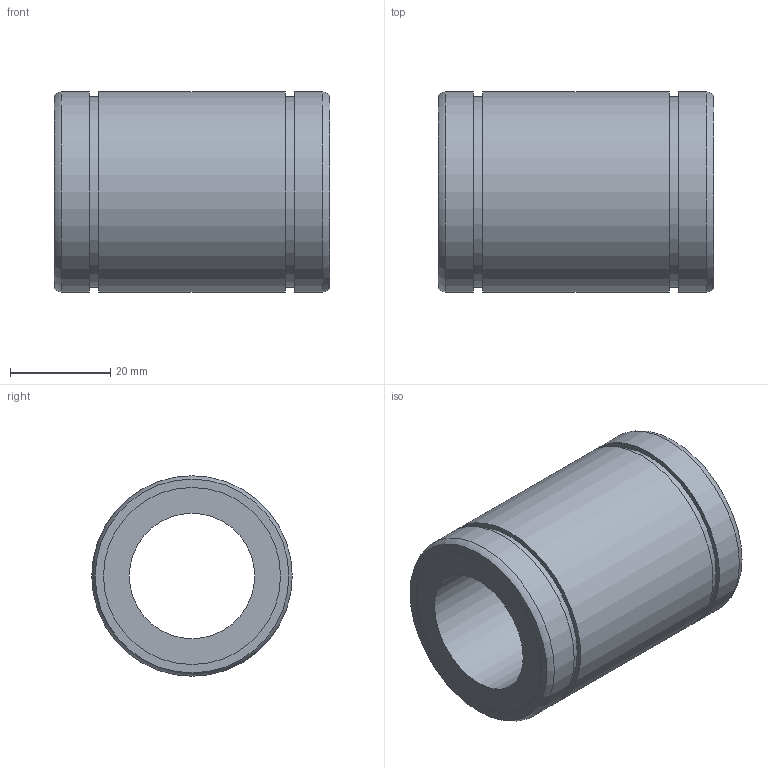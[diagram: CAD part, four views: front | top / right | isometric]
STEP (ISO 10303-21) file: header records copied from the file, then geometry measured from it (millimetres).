
FILE_DESCRIPTION((''),'2;1');
FILE_NAME('D:\製品 (図面)\カタログ用3D\リニアベアリング関連\STEP形式\L\L25A.stp','2010-06-02T17:32:54',('Tsuchiya'),(''),'Autodesk Inventor 10','Autodesk Inventor 10','');
FILE_SCHEMA(('AUTOMOTIVE_DESIGN { 1 0 10303 214 1 1 1 1 }'));
Length unit declared in the file: millimetre
Products named in the file (1): L25A
Bounding box: 55 x 40 x 40 mm (x, y, z)
Volume: 41467.4 mm3; surface area: 13104.8 mm2
Topology: 1 solids, 1 shells, 18 faces, 28 edges, 18 vertices
Faces by surface type: cylinder 8, plane 8, torus 2
Full cylindrical faces by diameter (mm): 25 x1, 35.3 x2, 38 x2, 40 x3
Entity records: 391 total; most frequent: DIRECTION 74, CARTESIAN_POINT 55, AXIS2_PLACEMENT_3D 37, ORIENTED_EDGE 36, EDGE_LOOP 36, VERTEX_POINT 18, CIRCLE 18, EDGE_CURVE 18
